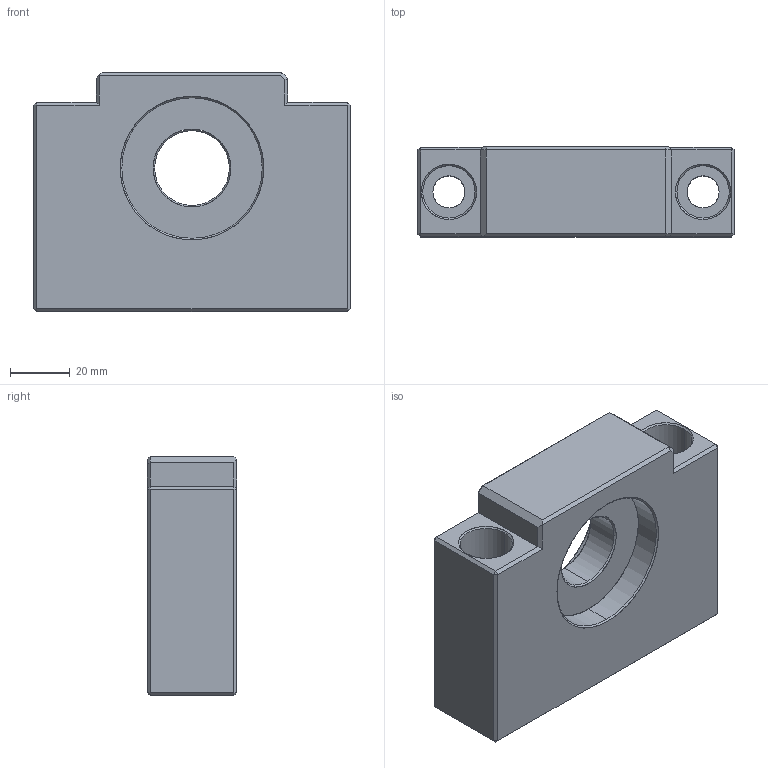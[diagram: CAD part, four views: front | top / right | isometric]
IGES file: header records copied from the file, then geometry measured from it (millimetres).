
Start section: SolidWorks IGES file using analytic representation for surfaces
Global section: file name: E:\同创达图纸\产品示意图\3D选型图\支撑座\BF系列\BF25.IGS; native system: SolidWorks 2012; preprocessor: SolidWorks 2012; author: gao; date: 130702.152437; units: millimetre
Bounding box: 106 x 30 x 80 mm (x, y, z)
Surface area: 34035.2 mm2 (no closed solid volume)
Topology: 0 solids, 0 shells, 77 faces, 872 edges, 872 vertices
Faces by surface type: bspline 47, revolution 30
